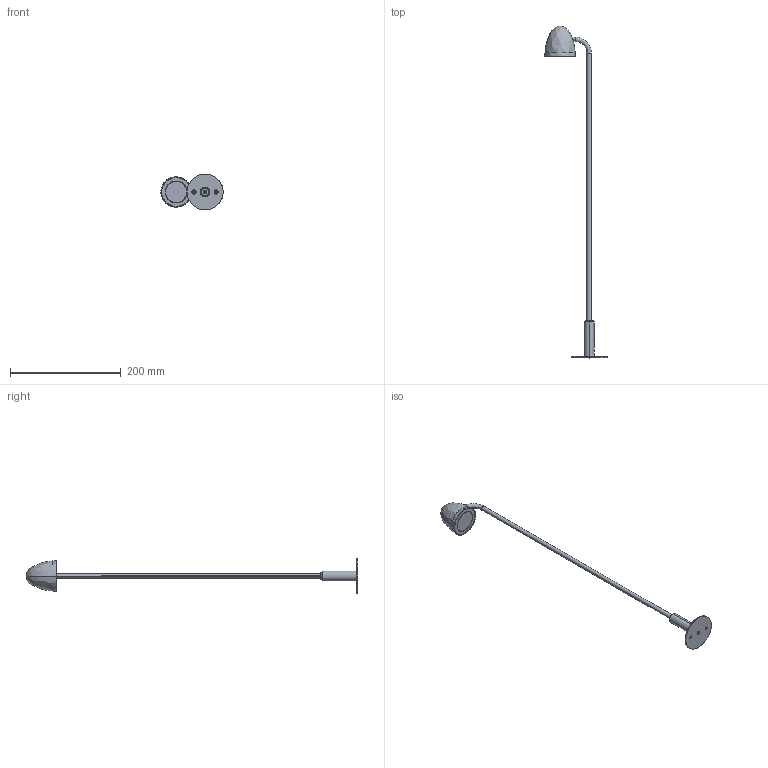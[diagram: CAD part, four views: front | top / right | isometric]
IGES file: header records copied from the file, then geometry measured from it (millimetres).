
Start section: SolidWorks IGES file using analytic representation for surfaces
Global section: file name: L:\Tecnico_PMT\R&D\PROGETTI ROADMAP 2024\OUTDOOR -METIS\Documentazione\3D per sito\POPPY\3D SITO_POPPY_600mm.IGS; native system: SolidWorks 2016; preprocessor: SolidWorks 2016; author: MartinaCorneroILTI; date: 260204.163854; units: millimetre
Bounding box: 112.43 x 599.7 x 65 mm (x, y, z)
Surface area: 53486.2 mm2 (no closed solid volume)
Topology: 0 solids, 0 shells, 104 faces, 2219 edges, 2217 vertices
Faces by surface type: revolution 68, bspline 36
